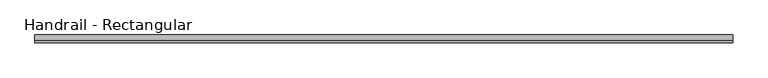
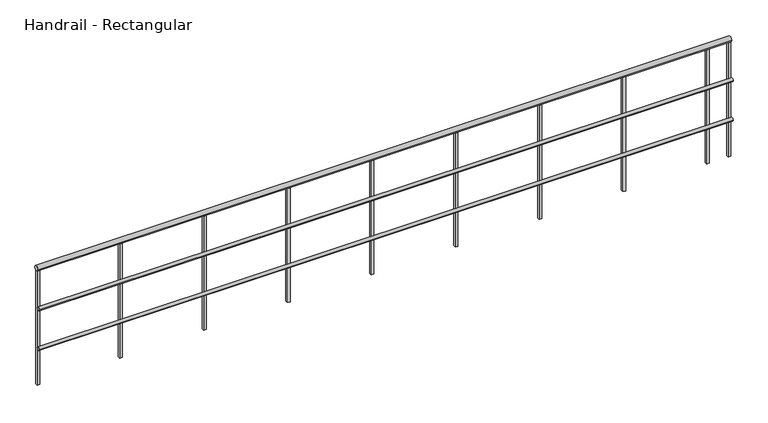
"""IFC4 building model written with IfcOpenShell, lengths in millimetres: railing geometry, Handrail - Rectangular."""

import ifcopenshell
import ifcopenshell.guid

model = None  # the IFC model being written
_history = None  # IfcOwnerHistory: only IFC2X3 demands one
_inside = {}  # id of a spatial element -> (the spatial element, [elements in it])
_under = {}  # id of a project, library or spatial element -> (it, [spatial elements below it])
_declared = {}  # id of a project -> (the project, [libraries it declares])
_typed = {}  # id of a type object -> (the type object, [elements of that type])
_made_of = {}  # id of a material, layer set ... -> (it, [elements and type objects made of it])


def new_model(schema):
    """Start an empty IFC model of exactly this schema.

    Asked for "IFC4X3", IfcOpenShell would pick the latest addendum, in which some entities
    have other attributes; the version numbers below select the first issue.
    IFC2X3 requires an IfcOwnerHistory on every rooted entity: one is made here for all.
    """
    global model, _history
    if schema == "IFC4X3":
        model = ifcopenshell.file(schema_version=(4, 3, 0, 0))
    else:
        model = ifcopenshell.file(schema=schema)
    _inside.clear()
    _under.clear()
    _declared.clear()
    _typed.clear()
    _made_of.clear()
    _history = None
    if model.schema == "IFC2X3":
        org = make("IfcOrganization", Name="unknown")
        user = make(
            "IfcPersonAndOrganization",
            ThePerson=make("IfcPerson", FamilyName="unknown"),
            TheOrganization=org,
        )
        app = make(
            "IfcApplication",
            ApplicationDeveloper=org,
            Version="unknown",
            ApplicationFullName="unknown",
            ApplicationIdentifier="unknown",
        )
        _history = make(
            "IfcOwnerHistory",
            OwningUser=user,
            OwningApplication=app,
            ChangeAction="ADDED",
            CreationDate=0,
        )
    return model


def make(cls, **values):
    """One entity of the class cls with the attributes given. An attribute that is None is left unset."""
    return model.create_entity(
        cls, **{name: value for name, value in values.items() if value is not None}
    )


def rooted(cls, **values):
    """An entity with a GlobalId (a new one), such as an element, a storey or a relation."""
    return make(cls, GlobalId=ifcopenshell.guid.new(), OwnerHistory=_history, **values)


def si_unit(unit_type, name, prefix=None):
    """IfcSIUnit, for example si_unit("LENGTHUNIT", "METRE", prefix="MILLI")."""
    return make("IfcSIUnit", UnitType=unit_type, Prefix=prefix, Name=name)


def assignment(units):
    """IfcUnitAssignment: the units of a project."""
    return None if units is None else make("IfcUnitAssignment", Units=units)


def point(xyz):
    """IfcCartesianPoint."""
    return None if xyz is None else make("IfcCartesianPoint", Coordinates=xyz)


def direction(xyz):
    """IfcDirection."""
    return None if xyz is None else make("IfcDirection", DirectionRatios=xyz)


def frame(location, z_axis=None, x_axis=None):
    """IfcAxis2Placement3D, a coordinate frame: its origin and axes. An axis left out is left unset."""
    return make(
        "IfcAxis2Placement3D",
        Location=point(location),
        Axis=direction(z_axis),
        RefDirection=direction(x_axis),
    )


def frame_2d(location, x_axis=None):
    """IfcAxis2Placement2D, a coordinate frame in the plane: its origin and x axis."""
    return make(
        "IfcAxis2Placement2D", Location=point(location), RefDirection=direction(x_axis)
    )


def origin():
    """The frame at (0, 0, 0) with its axes left unset."""
    return frame((0.0, 0.0, 0.0))


def place(relative_to, where):
    """IfcLocalPlacement: puts the frame where relative to a parent placement (None: the world)."""
    return make(
        "IfcLocalPlacement", PlacementRelTo=relative_to, RelativePlacement=where
    )


def context(
    kind, dimensions, precision=None, world=None, true_north=None, identifier=None
):
    """IfcGeometricRepresentationContext, for example the 3D "Model" context."""
    return make(
        "IfcGeometricRepresentationContext",
        ContextIdentifier=identifier,
        ContextType=kind,
        CoordinateSpaceDimension=dimensions,
        Precision=precision,
        WorldCoordinateSystem=world,
        TrueNorth=true_north,
    )


def project(units=None, contexts=None):
    """IfcProject with its units and contexts."""
    return rooted(
        "IfcProject",
        Name="project",
        RepresentationContexts=contexts,
        UnitsInContext=assignment(units),
    )


def spatial(cls, under=None, at=None, **own):
    """A site, building, storey or space (cls), placed at a placement, below another one or the project."""
    s = rooted(cls, ObjectPlacement=at, **own)
    if under is not None:
        _under.setdefault(under.id(), (under, []))[1].append(s)
    return s


def polyline(points):
    """IfcPolyline through the points."""
    return make("IfcPolyline", Points=[point(p) for p in points])


def circle_curve(where, radius):
    """IfcCircle in the frame where."""
    return make("IfcCircle", Position=where, Radius=radius)


def trimmed(basis, trim1, trim2, sense, master):
    """IfcTrimmedCurve: the piece of a basis curve between two trims."""
    return make(
        "IfcTrimmedCurve",
        BasisCurve=basis,
        Trim1=trim1,
        Trim2=trim2,
        SenseAgreement=sense,
        MasterRepresentation=master,
    )


def segment(curve, same_sense, transition):
    """IfcCompositeCurveSegment."""
    return make(
        "IfcCompositeCurveSegment",
        Transition=transition,
        SameSense=same_sense,
        ParentCurve=curve,
    )


def composite_curve(segments, self_intersect=None):
    """IfcCompositeCurve: segments joined end to end."""
    return make("IfcCompositeCurve", Segments=segments, SelfIntersect=self_intersect)


def outline(outer, holes=None, kind="AREA"):
    """IfcArbitraryClosedProfileDef: a profile drawn as a closed curve; with holes, ...WithVoids."""
    if holes is None:
        return make("IfcArbitraryClosedProfileDef", ProfileType=kind, OuterCurve=outer)
    return make(
        "IfcArbitraryProfileDefWithVoids",
        ProfileType=kind,
        OuterCurve=outer,
        InnerCurves=holes,
    )


def extrude(swept, where, along, depth):
    """IfcExtrudedAreaSolid: the profile swept, set in the frame where, extruded along a direction by depth."""
    return make(
        "IfcExtrudedAreaSolid",
        SweptArea=swept,
        Position=where,
        ExtrudedDirection=direction(along),
        Depth=depth,
    )


def shape(context_of_items, identifier, shape_type, items):
    """IfcShapeRepresentation: the items that make up one representation, for example the "Body"."""
    return make(
        "IfcShapeRepresentation",
        ContextOfItems=context_of_items,
        RepresentationIdentifier=identifier,
        RepresentationType=shape_type,
        Items=items,
    )


def source(mapping_origin, context_of_items, identifier, shape_type, items):
    """IfcRepresentationMap: a shape defined once, which mapped items show again and again."""
    return make(
        "IfcRepresentationMap",
        MappingOrigin=mapping_origin,
        MappedRepresentation=shape(context_of_items, identifier, shape_type, items),
    )


def transform(
    local_origin,
    x_axis=None,
    y_axis=None,
    z_axis=None,
    scale=None,
    scale2=None,
    scale3=None,
    uniform=True,
):
    """IfcCartesianTransformationOperator3D, or its non-uniform kind. x_axis, y_axis, z_axis: its Axis1, 2, 3."""
    if uniform:
        return make(
            "IfcCartesianTransformationOperator3D",
            Axis1=direction(x_axis),
            Axis2=direction(y_axis),
            LocalOrigin=point(local_origin),
            Scale=scale,
            Axis3=direction(z_axis),
        )
    return make(
        "IfcCartesianTransformationOperator3DnonUniform",
        Axis1=direction(x_axis),
        Axis2=direction(y_axis),
        LocalOrigin=point(local_origin),
        Scale=scale,
        Axis3=direction(z_axis),
        Scale2=scale2,
        Scale3=scale3,
    )


def mapped(mapping_source, mapping_target):
    """IfcMappedItem: shows the shape of a source again, moved by a transform."""
    return make(
        "IfcMappedItem", MappingSource=mapping_source, MappingTarget=mapping_target
    )


def made_of(thing, what):
    """Note that an element or type object is made of a material, layer set ...; save() writes the relation."""
    if what is not None:
        _made_of.setdefault(what.id(), (what, []))[1].append(thing)
    return thing


def element(
    cls,
    number,
    at=None,
    inside=None,
    cuts=None,
    type_object=None,
    material=None,
    context=None,
    identifier="Body",
    shape_type=None,
    held_by="IfcProductDefinitionShape",
    body=None,
    shapes=None,
    **own,
):
    """One element of the class cls, such as IfcWall. Its Tag is "e" and its number.

    at: its placement. inside: the storey or other place that contains it. cuts: it is an
    opening in that element (IfcRelVoidsElement). A single representation is given by context,
    identifier, shape_type and body (its items); several are given by shapes. held_by: the class
    of the entity that holds the representations. save() writes the other relations.
    """
    e = rooted(cls, Tag="e%d" % number, ObjectPlacement=at, **own)
    if body is not None:
        shapes = [shape(context, identifier, shape_type, body)]
    if shapes is not None:
        e.Representation = make(held_by, Representations=shapes)
    if inside is not None:
        _inside.setdefault(inside.id(), (inside, []))[1].append(e)
    if cuts is not None:
        rooted(
            "IfcRelVoidsElement", RelatingBuildingElement=cuts, RelatedOpeningElement=e
        )
    if type_object is not None:
        _typed.setdefault(type_object.id(), (type_object, []))[1].append(e)
    return made_of(e, material)


def aggregate(whole, parts):
    """IfcRelAggregates: a whole, such as a stair, and the parts it consists of."""
    return rooted("IfcRelAggregates", RelatingObject=whole, RelatedObjects=parts)


def save(model, path):
    """Write the relations noted so far, then the file.

    IfcRelAggregates (storeys below a building ...), IfcRelContainedInSpatialStructure (elements
    in a storey), IfcRelDefinesByType, IfcRelAssociatesMaterial and IfcRelDeclares: one each for
    every whole, place, type object, material and project.
    """
    for whole, parts in _under.values():
        aggregate(whole, parts)
    for where, things in _inside.values():
        rooted(
            "IfcRelContainedInSpatialStructure",
            RelatedElements=things,
            RelatingStructure=where,
        )
    for kind, things in _typed.values():
        rooted("IfcRelDefinesByType", RelatedObjects=things, RelatingType=kind)
    for what, things in _made_of.values():
        rooted("IfcRelAssociatesMaterial", RelatedObjects=things, RelatingMaterial=what)
    for by, libraries in _declared.values():
        rooted("IfcRelDeclares", RelatingContext=by, RelatedDefinitions=libraries)
    model.write(path)


def handrail_rectangular_959c32e3(model_context):
    return source(origin(), model_context, "Body", "SweptSolid", [
        extrude(outline(composite_curve([segment(trimmed(circle_curve(frame_2d((-35578.5683133, 9740.9)), 12.7), [point((-35591.2683133, 9740.9))], [point((-35565.8683133, 9740.9))], False, "CARTESIAN"), True, "CONTINUOUS"), segment(trimmed(circle_curve(frame_2d((-35578.5683133, 9740.9)), 12.7), [point((-35565.8683133, 9740.9))], [point((-35591.2683133, 9740.9))], False, "CARTESIAN"), True, "CONTINUOUS")], self_intersect=False)), frame((-11164.8589563, 0.0, 0.0), z_axis=(1.0, 0.0, 0.0), x_axis=(0.0, 1.0, 0.0)), (0.0, 0.0, 1.0), 5041.9),
        extrude(outline(composite_curve([segment(trimmed(circle_curve(frame_2d((-35578.5683133, 9436.1)), 12.7), [point((-35591.2683133, 9436.1))], [point((-35565.8683133, 9436.1))], False, "CARTESIAN"), True, "CONTINUOUS"), segment(trimmed(circle_curve(frame_2d((-35578.5683133, 9436.1)), 12.7), [point((-35565.8683133, 9436.1))], [point((-35591.2683133, 9436.1))], False, "CARTESIAN"), True, "CONTINUOUS")], self_intersect=False)), frame((-11164.8589563, 0.0, 0.0), z_axis=(1.0, 0.0, 0.0), x_axis=(0.0, 1.0, 0.0)), (0.0, 0.0, 1.0), 5041.9),
        extrude(outline(composite_curve([segment(trimmed(circle_curve(frame_2d((-35553.1683133, 10039.35)), 19.05), [point((-35572.2183133, 10039.35))], [point((-35534.1183133, 10039.35))], False, "CARTESIAN"), True, "CONTINUOUS"), segment(trimmed(circle_curve(frame_2d((-35553.1683133, 10039.35)), 19.05), [point((-35534.1183133, 10039.35))], [point((-35572.2183133, 10039.35))], False, "CARTESIAN"), True, "CONTINUOUS")], self_intersect=False)), frame((-11164.8589563, 0.0, 0.0), z_axis=(1.0, 0.0, 0.0), x_axis=(0.0, 1.0, 0.0)), (0.0, 0.0, 1.0), 5041.9),
        extrude(outline(polyline([(-6297.5839563, -35543.6433133), (-6278.5339563, -35543.6433133), (-6278.5339563, -35562.6933133), (-6297.5839563, -35562.6933133), (-6297.5839563, -35543.6433133)])), frame((0.0, 0.0, 9144.0), z_axis=(0.0, 0.0, 1.0), x_axis=(1.0, 0.0, 0.0)), (0.0, 0.0, 1.0), 876.3),
        extrude(outline(polyline([(-6907.1839563, -35543.6433133), (-6888.1339563, -35543.6433133), (-6888.1339563, -35562.6933133), (-6907.1839563, -35562.6933133), (-6907.1839563, -35543.6433133)])), frame((0.0, 0.0, 9144.0), z_axis=(0.0, 0.0, 1.0), x_axis=(1.0, 0.0, 0.0)), (0.0, 0.0, 1.0), 876.3),
        extrude(outline(polyline([(-7516.7839563, -35543.6433133), (-7497.7339563, -35543.6433133), (-7497.7339563, -35562.6933133), (-7516.7839563, -35562.6933133), (-7516.7839563, -35543.6433133)])), frame((0.0, 0.0, 9144.0), z_axis=(0.0, 0.0, 1.0), x_axis=(1.0, 0.0, 0.0)), (0.0, 0.0, 1.0), 876.3),
        extrude(outline(polyline([(-8126.3839563, -35543.6433133), (-8107.3339563, -35543.6433133), (-8107.3339563, -35562.6933133), (-8126.3839563, -35562.6933133), (-8126.3839563, -35543.6433133)])), frame((0.0, 0.0, 9144.0), z_axis=(0.0, 0.0, 1.0), x_axis=(1.0, 0.0, 0.0)), (0.0, 0.0, 1.0), 876.3),
        extrude(outline(polyline([(-8735.9839563, -35543.6433133), (-8716.9339563, -35543.6433133), (-8716.9339563, -35562.6933133), (-8735.9839563, -35562.6933133), (-8735.9839563, -35543.6433133)])), frame((0.0, 0.0, 9144.0), z_axis=(0.0, 0.0, 1.0), x_axis=(1.0, 0.0, 0.0)), (0.0, 0.0, 1.0), 876.3),
        extrude(outline(polyline([(-9345.5839563, -35543.6433133), (-9326.5339563, -35543.6433133), (-9326.5339563, -35562.6933133), (-9345.5839563, -35562.6933133), (-9345.5839563, -35543.6433133)])), frame((0.0, 0.0, 9144.0), z_axis=(0.0, 0.0, 1.0), x_axis=(1.0, 0.0, 0.0)), (0.0, 0.0, 1.0), 876.3),
        extrude(outline(polyline([(-9955.1839563, -35543.6433133), (-9936.1339563, -35543.6433133), (-9936.1339563, -35562.6933133), (-9955.1839563, -35562.6933133), (-9955.1839563, -35543.6433133)])), frame((0.0, 0.0, 9144.0), z_axis=(0.0, 0.0, 1.0), x_axis=(1.0, 0.0, 0.0)), (0.0, 0.0, 1.0), 876.3),
        extrude(outline(polyline([(-10564.7839563, -35543.6433133), (-10545.7339563, -35543.6433133), (-10545.7339563, -35562.6933133), (-10564.7839563, -35562.6933133), (-10564.7839563, -35543.6433133)])), frame((0.0, 0.0, 9144.0), z_axis=(0.0, 0.0, 1.0), x_axis=(1.0, 0.0, 0.0)), (0.0, 0.0, 1.0), 876.3),
        extrude(outline(polyline([(-6142.0089563, -35543.6433133), (-6122.9589563, -35543.6433133), (-6122.9589563, -35562.6933133), (-6142.0089563, -35562.6933133), (-6142.0089563, -35543.6433133)])), frame((0.0, 0.0, 9144.0), z_axis=(0.0, 0.0, 1.0), x_axis=(1.0, 0.0, 0.0)), (0.0, 0.0, 1.0), 876.3),
        extrude(outline(polyline([(-11164.8589563, -35543.6433133), (-11145.8089563, -35543.6433133), (-11145.8089563, -35562.6933133), (-11164.8589563, -35562.6933133), (-11164.8589563, -35543.6433133)])), frame((0.0, 0.0, 9144.0), z_axis=(0.0, 0.0, 1.0), x_axis=(1.0, 0.0, 0.0)), (0.0, 0.0, 1.0), 876.3),
    ])


if __name__ == "__main__":
    model = new_model("IFC4")
    model_context = context("Model", 3, world=origin())
    ifc_project = project(units=[si_unit("LENGTHUNIT", "METRE", prefix="MILLI")], contexts=[model_context])
    site = spatial("IfcSite", under=ifc_project)
    building = spatial("IfcBuilding", under=site)
    placement = place(None, origin())
    handrail_rectangular_shape = handrail_rectangular_959c32e3(model_context)
    element("IfcRailing", 1, ObjectType="Handrail - Rectangular", at=placement, inside=building, context=model_context, shape_type="MappedRepresentation", body=[
        mapped(handrail_rectangular_shape, transform((0.0, 0.0, 0.0), x_axis=(1.0, 0.0, 0.0), y_axis=(0.0, 1.0, 0.0), z_axis=(0.0, 0.0, 1.0))),
    ])
    save(model, "model.ifc")
